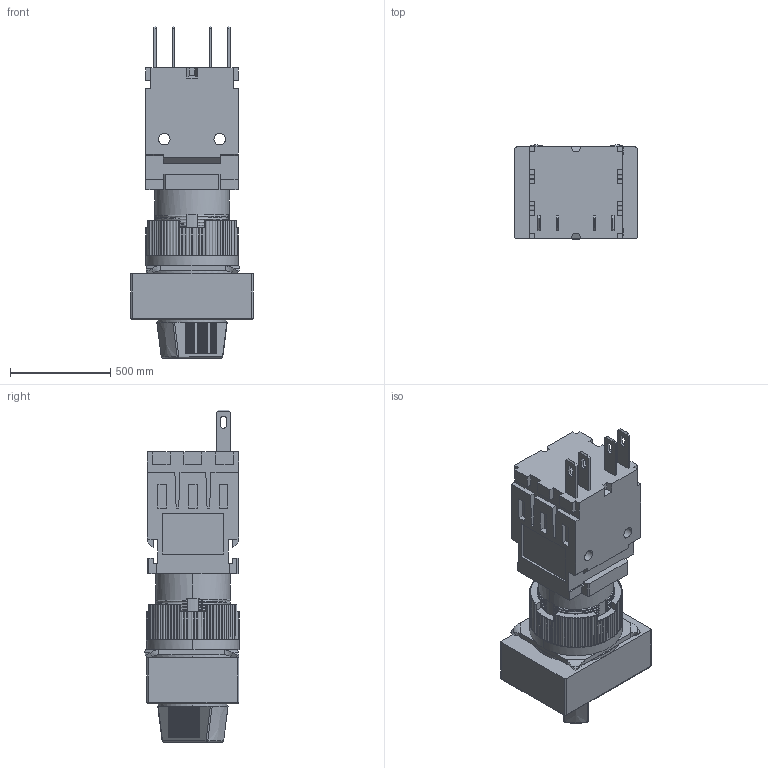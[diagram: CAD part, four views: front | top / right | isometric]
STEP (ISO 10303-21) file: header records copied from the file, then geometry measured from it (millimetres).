
FILE_DESCRIPTION((''),'2;1');
FILE_NAME('ASM0004_ASM','2016-06-03T',('Administrator'),(''),'PRO/ENGINEER BY PARAMETRIC TECHNOLOGY CORPORATION, 2012360','PRO/ENGINEER BY PARAMETRIC TECHNOLOGY CORPORATION, 2012360','');
FILE_SCHEMA(('CONFIG_CONTROL_DESIGN'));
Products named in the file (1): ASM0004_ASM
Bounding box: 609.6 x 471.11 x 1653.54 mm (x, y, z)
Volume: 245342200.8 mm3; surface area: 4677703.1 mm2
Topology: 1 solids, 8 shells, 1026 faces, 2807 edges, 1807 vertices
Faces by surface type: plane 483, cylinder 404, bspline 127, sphere 8, cone 2, torus 2
Entity records: 50773 total; most frequent: CARTESIAN_POINT 25253, ORIENTED_EDGE 5614, DIRECTION 5012, EDGE_CURVE 2807, VERTEX_POINT 1807, AXIS2_PLACEMENT_3D 1765, VECTOR 1482, LINE 1482
